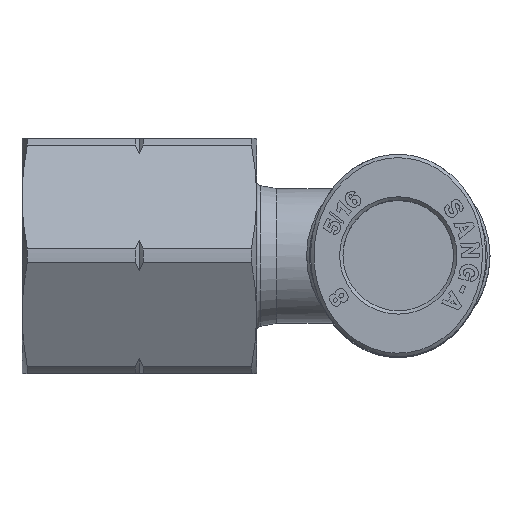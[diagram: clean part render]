
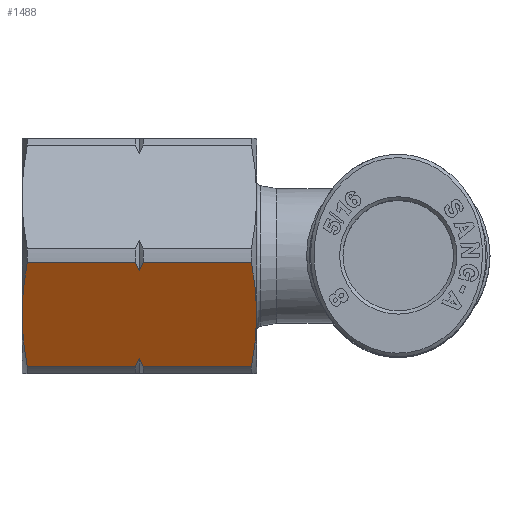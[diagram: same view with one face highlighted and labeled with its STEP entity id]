
A CAD part, top view. The second image highlights one B-rep face of the part: STEP entity #1488.
In plain terms, the highlighted planar face has unit normal (0, -0.5, 0.866).
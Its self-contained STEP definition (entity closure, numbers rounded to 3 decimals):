
#169=CARTESIAN_POINT('',(17.4,-4.366,7.561));
#170=VERTEX_POINT('',#169);
#443=CARTESIAN_POINT('',(0.,-4.366,7.561));
#444=VERTEX_POINT('',#443);
#445=CARTESIAN_POINT('',(0.389,-8.22,5.336));
#446=VERTEX_POINT('',#445);
#447=CARTESIAN_POINT('',(0.,-4.366,7.561));
#448=CARTESIAN_POINT('',(0.,-6.182,6.513));
#449=CARTESIAN_POINT('',(0.389,-8.22,5.336));
#457=(BOUNDED_CURVE()B_SPLINE_CURVE(2,(#447,#448,#449),.UNSPECIFIED.,.F.,.U.)B_SPLINE_CURVE_WITH_KNOTS((3,3),(0.447,0.894),.UNSPECIFIED.)CURVE()GEOMETRIC_REPRESENTATION_ITEM()RATIONAL_B_SPLINE_CURVE((1.0,1.03,1.0))REPRESENTATION_ITEM(''));
#458=EDGE_CURVE('',#444,#446,#457,.T.);
#497=CARTESIAN_POINT('',(0.389,-0.512,9.787));
#498=VERTEX_POINT('',#497);
#499=CARTESIAN_POINT('',(0.389,-0.512,9.787));
#500=CARTESIAN_POINT('',(0.,-2.55,8.61));
#501=CARTESIAN_POINT('',(0.,-4.366,7.561));
#509=(BOUNDED_CURVE()B_SPLINE_CURVE(2,(#499,#500,#501),.UNSPECIFIED.,.F.,.U.)B_SPLINE_CURVE_WITH_KNOTS((3,3),(0.0,0.447),.UNSPECIFIED.)CURVE()GEOMETRIC_REPRESENTATION_ITEM()RATIONAL_B_SPLINE_CURVE((1.0,1.03,1.0))REPRESENTATION_ITEM(''));
#510=EDGE_CURVE('',#498,#444,#509,.T.);
#661=CARTESIAN_POINT('',(8.4,-8.22,5.336));
#662=VERTEX_POINT('',#661);
#663=CARTESIAN_POINT('',(8.7,-7.608,5.69));
#664=VERTEX_POINT('',#663);
#665=CARTESIAN_POINT('',(8.4,-8.22,5.336));
#666=CARTESIAN_POINT('',(8.563,-7.909,5.516));
#667=CARTESIAN_POINT('',(8.7,-7.608,5.69));
#675=(BOUNDED_CURVE()B_SPLINE_CURVE(2,(#665,#666,#667),.UNSPECIFIED.,.F.,.U.)B_SPLINE_CURVE_WITH_KNOTS((3,3),(0.0,0.077),.UNSPECIFIED.)CURVE()GEOMETRIC_REPRESENTATION_ITEM()RATIONAL_B_SPLINE_CURVE((1.0,1.001,1.0))REPRESENTATION_ITEM(''));
#676=EDGE_CURVE('',#662,#664,#675,.T.);
#717=CARTESIAN_POINT('',(8.7,-1.123,9.433));
#718=VERTEX_POINT('',#717);
#719=CARTESIAN_POINT('',(8.4,-0.512,9.787));
#720=VERTEX_POINT('',#719);
#721=CARTESIAN_POINT('',(8.7,-1.123,9.433));
#722=CARTESIAN_POINT('',(8.563,-0.822,9.607));
#723=CARTESIAN_POINT('',(8.4,-0.512,9.787));
#731=(BOUNDED_CURVE()B_SPLINE_CURVE(2,(#721,#722,#723),.UNSPECIFIED.,.F.,.U.)B_SPLINE_CURVE_WITH_KNOTS((3,3),(0.0,0.077),.UNSPECIFIED.)CURVE()GEOMETRIC_REPRESENTATION_ITEM()RATIONAL_B_SPLINE_CURVE((1.0,1.001,1.0))REPRESENTATION_ITEM(''));
#732=EDGE_CURVE('',#718,#720,#731,.T.);
#1038=CARTESIAN_POINT('',(9.0,-8.22,5.336));
#1039=VERTEX_POINT('',#1038);
#1047=CARTESIAN_POINT('',(8.7,-7.608,5.69));
#1048=CARTESIAN_POINT('',(8.837,-7.909,5.516));
#1049=CARTESIAN_POINT('',(9.,-8.22,5.336));
#1057=(BOUNDED_CURVE()B_SPLINE_CURVE(2,(#1047,#1048,#1049),.UNSPECIFIED.,.F.,.U.)B_SPLINE_CURVE_WITH_KNOTS((3,3),(0.0,0.077),.UNSPECIFIED.)CURVE()GEOMETRIC_REPRESENTATION_ITEM()RATIONAL_B_SPLINE_CURVE((1.0,1.001,1.0))REPRESENTATION_ITEM(''));
#1058=EDGE_CURVE('',#664,#1039,#1057,.T.);
#1069=CARTESIAN_POINT('',(9.0,-0.512,9.787));
#1070=VERTEX_POINT('',#1069);
#1071=CARTESIAN_POINT('',(9.0,-0.512,9.787));
#1072=CARTESIAN_POINT('',(8.837,-0.822,9.607));
#1073=CARTESIAN_POINT('',(8.7,-1.123,9.433));
#1081=(BOUNDED_CURVE()B_SPLINE_CURVE(2,(#1071,#1072,#1073),.UNSPECIFIED.,.F.,.U.)B_SPLINE_CURVE_WITH_KNOTS((3,3),(0.0,0.077),.UNSPECIFIED.)CURVE()GEOMETRIC_REPRESENTATION_ITEM()RATIONAL_B_SPLINE_CURVE((1.0,1.001,1.0))REPRESENTATION_ITEM(''));
#1082=EDGE_CURVE('',#1070,#718,#1081,.T.);
#1345=CARTESIAN_POINT('',(17.011,-8.22,5.336));
#1346=VERTEX_POINT('',#1345);
#1347=CARTESIAN_POINT('',(17.011,-8.22,5.336));
#1348=CARTESIAN_POINT('',(17.4,-6.182,6.513));
#1349=CARTESIAN_POINT('',(17.4,-4.366,7.561));
#1357=(BOUNDED_CURVE()B_SPLINE_CURVE(2,(#1347,#1348,#1349),.UNSPECIFIED.,.F.,.U.)B_SPLINE_CURVE_WITH_KNOTS((3,3),(0.0,0.447),.UNSPECIFIED.)CURVE()GEOMETRIC_REPRESENTATION_ITEM()RATIONAL_B_SPLINE_CURVE((1.0,1.03,1.0))REPRESENTATION_ITEM(''));
#1358=EDGE_CURVE('',#1346,#170,#1357,.T.);
#1391=CARTESIAN_POINT('',(17.011,-0.512,9.787));
#1392=VERTEX_POINT('',#1391);
#1393=CARTESIAN_POINT('',(17.4,-4.366,7.561));
#1394=CARTESIAN_POINT('',(17.4,-2.55,8.61));
#1395=CARTESIAN_POINT('',(17.011,-0.512,9.787));
#1403=(BOUNDED_CURVE()B_SPLINE_CURVE(2,(#1393,#1394,#1395),.UNSPECIFIED.,.F.,.U.)B_SPLINE_CURVE_WITH_KNOTS((3,3),(0.447,0.894),.UNSPECIFIED.)CURVE()GEOMETRIC_REPRESENTATION_ITEM()RATIONAL_B_SPLINE_CURVE((1.0,1.03,1.0))REPRESENTATION_ITEM(''));
#1404=EDGE_CURVE('',#170,#1392,#1403,.T.);
#1438=CARTESIAN_POINT('',(17.011,-0.512,9.787));
#1439=DIRECTION('',(-1.0,0.0,0.0));
#1440=VECTOR('',#1439,8.011);
#1441=LINE('',#1438,#1440);
#1442=EDGE_CURVE('',#1392,#1070,#1441,.T.);
#1454=CARTESIAN_POINT('',(0.0,0.,10.082));
#1455=DIRECTION('',(0.0,-0.5,0.866));
#1456=DIRECTION('',(0.0,-0.866,-0.5));
#1457=AXIS2_PLACEMENT_3D('',#1454,#1455,#1456);
#1458=PLANE('',#1457);
#1459=ORIENTED_EDGE('',*,*,#510,.T.);
#1460=ORIENTED_EDGE('',*,*,#458,.T.);
#1461=CARTESIAN_POINT('',(0.389,-8.22,5.336));
#1462=DIRECTION('',(1.0,0.0,0.0));
#1463=VECTOR('',#1462,8.011);
#1464=LINE('',#1461,#1463);
#1465=EDGE_CURVE('',#446,#662,#1464,.T.);
#1466=ORIENTED_EDGE('',*,*,#1465,.T.);
#1467=ORIENTED_EDGE('',*,*,#676,.T.);
#1468=ORIENTED_EDGE('',*,*,#1058,.T.);
#1469=CARTESIAN_POINT('',(9.0,-8.22,5.336));
#1470=DIRECTION('',(1.0,0.0,0.0));
#1471=VECTOR('',#1470,8.011);
#1472=LINE('',#1469,#1471);
#1473=EDGE_CURVE('',#1039,#1346,#1472,.T.);
#1474=ORIENTED_EDGE('',*,*,#1473,.T.);
#1475=ORIENTED_EDGE('',*,*,#1358,.T.);
#1476=ORIENTED_EDGE('',*,*,#1404,.T.);
#1477=ORIENTED_EDGE('',*,*,#1442,.T.);
#1478=ORIENTED_EDGE('',*,*,#1082,.T.);
#1479=ORIENTED_EDGE('',*,*,#732,.T.);
#1480=CARTESIAN_POINT('',(8.4,-0.512,9.787));
#1481=DIRECTION('',(-1.0,0.0,0.0));
#1482=VECTOR('',#1481,8.011);
#1483=LINE('',#1480,#1482);
#1484=EDGE_CURVE('',#720,#498,#1483,.T.);
#1485=ORIENTED_EDGE('',*,*,#1484,.T.);
#1486=EDGE_LOOP('',(#1459,#1460,#1466,#1467,#1468,#1474,#1475,#1476,#1477,#1478,#1479,#1485));
#1487=FACE_OUTER_BOUND('',#1486,.T.);
#1488=ADVANCED_FACE('',(#1487),#1458,.T.);
